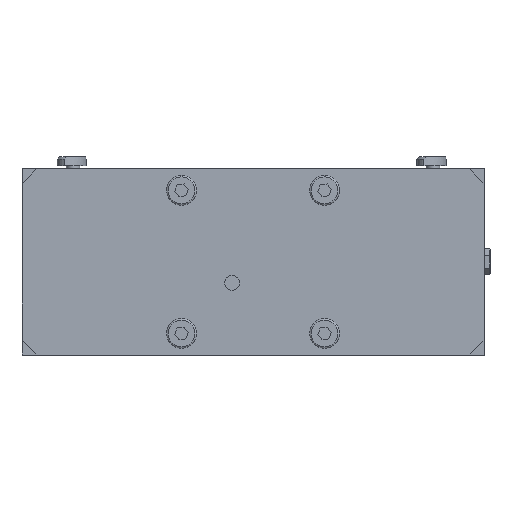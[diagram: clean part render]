
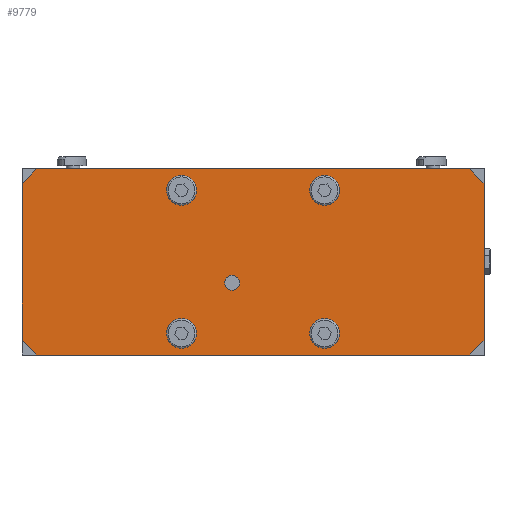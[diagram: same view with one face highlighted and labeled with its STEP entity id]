
A CAD part, front view. The second image highlights one B-rep face of the part: STEP entity #9779.
In plain terms, the highlighted planar face has unit normal (0, -1, 0).
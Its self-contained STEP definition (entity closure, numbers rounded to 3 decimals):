
#328 = DIRECTION ( 'NONE',  ( 0., 1., 0. ) ) ;
#345 = EDGE_LOOP ( 'NONE', ( #22548 ) ) ;
#487 = CARTESIAN_POINT ( 'NONE',  ( -14., 0., -19. ) ) ;
#914 = DIRECTION ( 'NONE',  ( 0., 0., 1. ) ) ;
#1525 = EDGE_CURVE ( 'NONE', #17424, #32238, #11475, .T. ) ;
#1586 = PLANE ( 'NONE',  #30794 ) ;
#2504 = VECTOR ( 'NONE', #6044, 1000. ) ;
#2696 = VERTEX_POINT ( 'NONE', #5654 ) ;
#2878 = LINE ( 'NONE', #13235, #27700 ) ;
#3225 = DIRECTION ( 'NONE',  ( 0., 0., -1. ) ) ;
#3307 = CARTESIAN_POINT ( 'NONE',  ( -48., 0., 48. ) ) ;
#3350 = CARTESIAN_POINT ( 'NONE',  ( -48., 0., -48. ) ) ;
#3964 = FACE_BOUND ( 'NONE', #29910, .T. ) ;
#4499 = VERTEX_POINT ( 'NONE', #8163 ) ;
#5143 = EDGE_CURVE ( 'NONE', #29791, #2696, #21043, .T. ) ;
#5654 = CARTESIAN_POINT ( 'NONE',  ( -145., 0., -62.5 ) ) ;
#6044 = DIRECTION ( 'NONE',  ( -0.707, 0., -0.707 ) ) ;
#7514 = ORIENTED_EDGE ( 'NONE', *, *, #24545, .T. ) ;
#7727 = EDGE_CURVE ( 'NONE', #29791, #14768, #16233, .T. ) ;
#8163 = CARTESIAN_POINT ( 'NONE',  ( -145., 0., 62.5 ) ) ;
#8165 = VECTOR ( 'NONE', #12498, 1000. ) ;
#8793 = CARTESIAN_POINT ( 'NONE',  ( -155., 0., -52.5 ) ) ;
#8881 = DIRECTION ( 'NONE',  ( 0., 1., 0. ) ) ;
#9077 = FACE_BOUND ( 'NONE', #29120, .T. ) ;
#9186 = ORIENTED_EDGE ( 'NONE', *, *, #7727, .T. ) ;
#9311 = CIRCLE ( 'NONE', #21210, 5. ) ;
#9705 = VECTOR ( 'NONE', #13945, 1000. ) ;
#9722 = FACE_BOUND ( 'NONE', #11036, .T. ) ;
#9779 = ADVANCED_FACE ( 'NONE', ( #9722, #30001, #24782, #9077, #3964, #32381 ), #1586, .F. ) ;
#9945 = AXIS2_PLACEMENT_3D ( 'NONE', #3307, #24116, #914 ) ;
#10320 = LINE ( 'NONE', #30942, #8165 ) ;
#10913 = CARTESIAN_POINT ( 'NONE',  ( 48., 0., 48. ) ) ;
#11036 = EDGE_LOOP ( 'NONE', ( #24772 ) ) ;
#11210 = VECTOR ( 'NONE', #32654, 1000. ) ;
#11280 = LINE ( 'NONE', #16684, #2504 ) ;
#11475 = LINE ( 'NONE', #31767, #19756 ) ;
#11769 = ORIENTED_EDGE ( 'NONE', *, *, #12274, .T. ) ;
#11930 = ORIENTED_EDGE ( 'NONE', *, *, #20013, .T. ) ;
#12039 = CARTESIAN_POINT ( 'NONE',  ( 155., 0., -62.5 ) ) ;
#12274 = EDGE_CURVE ( 'NONE', #4499, #17424, #11280, .T. ) ;
#12498 = DIRECTION ( 'NONE',  ( 0.707, 0., -0.707 ) ) ;
#13206 = CARTESIAN_POINT ( 'NONE',  ( -56., 0., -48. ) ) ;
#13235 = CARTESIAN_POINT ( 'NONE',  ( 155., 0., 62.5 ) ) ;
#13654 = ORIENTED_EDGE ( 'NONE', *, *, #1525, .T. ) ;
#13682 = CARTESIAN_POINT ( 'NONE',  ( 145., 0., 62.5 ) ) ;
#13785 = CARTESIAN_POINT ( 'NONE',  ( 155., 0., -62.5 ) ) ;
#13945 = DIRECTION ( 'NONE',  ( -1., 0., 0. ) ) ;
#14105 = LINE ( 'NONE', #24069, #20507 ) ;
#14366 = CIRCLE ( 'NONE', #27311, 8. ) ;
#14768 = VERTEX_POINT ( 'NONE', #28831 ) ;
#14932 = DIRECTION ( 'NONE',  ( 0., -1., 0. ) ) ;
#15486 = CARTESIAN_POINT ( 'NONE',  ( 155., 0., -62.5 ) ) ;
#15880 = ORIENTED_EDGE ( 'NONE', *, *, #31162, .F. ) ;
#15889 = VERTEX_POINT ( 'NONE', #30926 ) ;
#16233 = LINE ( 'NONE', #23831, #30655 ) ;
#16446 = ORIENTED_EDGE ( 'NONE', *, *, #21573, .T. ) ;
#16684 = CARTESIAN_POINT ( 'NONE',  ( -145., 0., 62.5 ) ) ;
#16867 = CIRCLE ( 'NONE', #21697, 8. ) ;
#17031 = CARTESIAN_POINT ( 'NONE',  ( -155., 0., 52.5 ) ) ;
#17099 = DIRECTION ( 'NONE',  ( 0., 0., -1. ) ) ;
#17121 = LINE ( 'NONE', #12039, #11210 ) ;
#17424 = VERTEX_POINT ( 'NONE', #17031 ) ;
#18272 = CARTESIAN_POINT ( 'NONE',  ( 48., 0., -48. ) ) ;
#18397 = CARTESIAN_POINT ( 'NONE',  ( 56., 0., 48. ) ) ;
#18820 = DIRECTION ( 'NONE',  ( 1., 0., 0. ) ) ;
#19756 = VECTOR ( 'NONE', #21917, 1000. ) ;
#20013 = EDGE_CURVE ( 'NONE', #32238, #2696, #10320, .T. ) ;
#20190 = CIRCLE ( 'NONE', #9945, 8. ) ;
#20316 = VERTEX_POINT ( 'NONE', #29824 ) ;
#20507 = VECTOR ( 'NONE', #26625, 1000. ) ;
#20765 = VERTEX_POINT ( 'NONE', #25525 ) ;
#20887 = EDGE_CURVE ( 'NONE', #20765, #20765, #16867, .T. ) ;
#21043 = LINE ( 'NONE', #13785, #9705 ) ;
#21210 = AXIS2_PLACEMENT_3D ( 'NONE', #24882, #14932, #17099 ) ;
#21321 = DIRECTION ( 'NONE',  ( -1., 0., 0. ) ) ;
#21573 = EDGE_CURVE ( 'NONE', #21990, #4499, #2878, .T. ) ;
#21697 = AXIS2_PLACEMENT_3D ( 'NONE', #18272, #328, #3225 ) ;
#21771 = ORIENTED_EDGE ( 'NONE', *, *, #27122, .T. ) ;
#21906 = CARTESIAN_POINT ( 'NONE',  ( 145., 0., -62.5 ) ) ;
#21917 = DIRECTION ( 'NONE',  ( 0., 0., -1. ) ) ;
#21990 = VERTEX_POINT ( 'NONE', #13682 ) ;
#22226 = EDGE_CURVE ( 'NONE', #26022, #26022, #23231, .T. ) ;
#22548 = ORIENTED_EDGE ( 'NONE', *, *, #20887, .T. ) ;
#22636 = ORIENTED_EDGE ( 'NONE', *, *, #25418, .T. ) ;
#23231 = CIRCLE ( 'NONE', #26485, 8. ) ;
#23240 = DIRECTION ( 'NONE',  ( 0., 1., 0. ) ) ;
#23653 = DIRECTION ( 'NONE',  ( 0.707, 0., 0.707 ) ) ;
#23670 = VERTEX_POINT ( 'NONE', #13206 ) ;
#23831 = CARTESIAN_POINT ( 'NONE',  ( 155., 0., -52.5 ) ) ;
#24069 = CARTESIAN_POINT ( 'NONE',  ( 155., 0., 52.5 ) ) ;
#24116 = DIRECTION ( 'NONE',  ( 0., 1., 0. ) ) ;
#24325 = DIRECTION ( 'NONE',  ( -1., 0., 0. ) ) ;
#24545 = EDGE_CURVE ( 'NONE', #15889, #15889, #20190, .T. ) ;
#24772 = ORIENTED_EDGE ( 'NONE', *, *, #22226, .T. ) ;
#24782 = FACE_BOUND ( 'NONE', #28257, .T. ) ;
#24882 = CARTESIAN_POINT ( 'NONE',  ( -14., 0., -14. ) ) ;
#25418 = EDGE_CURVE ( 'NONE', #23670, #23670, #14366, .T. ) ;
#25525 = CARTESIAN_POINT ( 'NONE',  ( 48., 0., -56. ) ) ;
#25606 = DIRECTION ( 'NONE',  ( 0., 0., 1. ) ) ;
#26022 = VERTEX_POINT ( 'NONE', #18397 ) ;
#26383 = VERTEX_POINT ( 'NONE', #487 ) ;
#26436 = ORIENTED_EDGE ( 'NONE', *, *, #28130, .F. ) ;
#26485 = AXIS2_PLACEMENT_3D ( 'NONE', #10913, #8881, #18820 ) ;
#26625 = DIRECTION ( 'NONE',  ( -0.707, 0., 0.707 ) ) ;
#26861 = DIRECTION ( 'NONE',  ( 0., 1., 0. ) ) ;
#27122 = EDGE_CURVE ( 'NONE', #20316, #21990, #14105, .T. ) ;
#27311 = AXIS2_PLACEMENT_3D ( 'NONE', #3350, #26861, #24325 ) ;
#27700 = VECTOR ( 'NONE', #21321, 1000. ) ;
#28130 = EDGE_CURVE ( 'NONE', #26383, #26383, #9311, .T. ) ;
#28257 = EDGE_LOOP ( 'NONE', ( #22636 ) ) ;
#28831 = CARTESIAN_POINT ( 'NONE',  ( 155., 0., -52.5 ) ) ;
#29120 = EDGE_LOOP ( 'NONE', ( #7514 ) ) ;
#29791 = VERTEX_POINT ( 'NONE', #21906 ) ;
#29824 = CARTESIAN_POINT ( 'NONE',  ( 155., 0., 52.5 ) ) ;
#29910 = EDGE_LOOP ( 'NONE', ( #26436 ) ) ;
#30001 = FACE_BOUND ( 'NONE', #345, .T. ) ;
#30655 = VECTOR ( 'NONE', #23653, 1000. ) ;
#30794 = AXIS2_PLACEMENT_3D ( 'NONE', #15486, #23240, #25606 ) ;
#30926 = CARTESIAN_POINT ( 'NONE',  ( -48., 0., 56. ) ) ;
#30942 = CARTESIAN_POINT ( 'NONE',  ( -145., 0., -62.5 ) ) ;
#31162 = EDGE_CURVE ( 'NONE', #20316, #14768, #17121, .T. ) ;
#31474 = ORIENTED_EDGE ( 'NONE', *, *, #5143, .F. ) ;
#31552 = EDGE_LOOP ( 'NONE', ( #16446, #11769, #13654, #11930, #31474, #9186, #15880, #21771 ) ) ;
#31767 = CARTESIAN_POINT ( 'NONE',  ( -155., 0., -62.5 ) ) ;
#32238 = VERTEX_POINT ( 'NONE', #8793 ) ;
#32381 = FACE_OUTER_BOUND ( 'NONE', #31552, .T. ) ;
#32654 = DIRECTION ( 'NONE',  ( 0., 0., -1. ) ) ;
